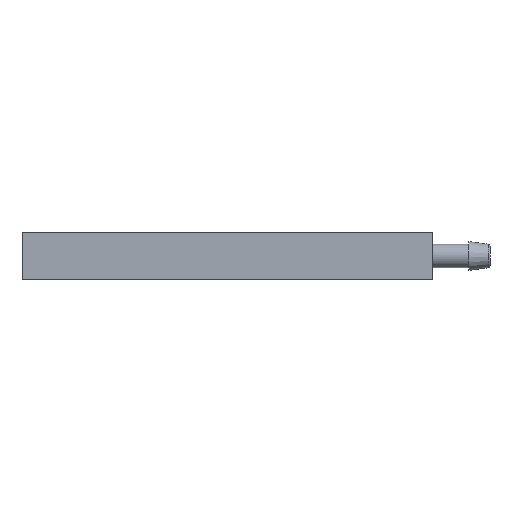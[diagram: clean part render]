
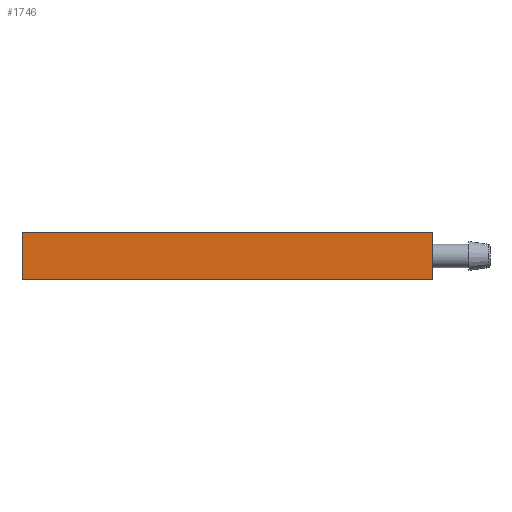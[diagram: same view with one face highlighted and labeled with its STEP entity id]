
A CAD part, front view. The second image highlights one B-rep face of the part: STEP entity #1746.
In plain terms, the highlighted planar face has unit normal (0, -1, 0) as drawn and (0, 1, 0) by its records, which use the part's own axes.
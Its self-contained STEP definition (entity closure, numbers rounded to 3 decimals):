
#688 = DIRECTION ( 'NONE',  ( 0., 0., -1. ) ) ;
#766 = CARTESIAN_POINT ( 'NONE',  ( 39., 7.1, -4.5 ) ) ;
#1393 = CARTESIAN_POINT ( 'NONE',  ( -39., 7.1, 4.5 ) ) ;
#1461 = VECTOR ( 'NONE', #8381, 1000. ) ;
#1746 = ADVANCED_FACE ( 'NONE', ( #5764 ), #3623, .F. ) ;
#1779 = VECTOR ( 'NONE', #10392, 1000. ) ;
#2696 = LINE ( 'NONE', #3382, #1779 ) ;
#3382 = CARTESIAN_POINT ( 'NONE',  ( 39., 7.1, -4.5 ) ) ;
#3484 = EDGE_LOOP ( 'NONE', ( #6270, #3801, #9234, #8752 ) ) ;
#3515 = EDGE_CURVE ( 'NONE', #6535, #3815, #6679, .T. ) ;
#3586 = CARTESIAN_POINT ( 'NONE',  ( 39., 7.1, -4.5 ) ) ;
#3623 = PLANE ( 'NONE',  #11320 ) ;
#3771 = VECTOR ( 'NONE', #6053, 1000. ) ;
#3801 = ORIENTED_EDGE ( 'NONE', *, *, #8968, .F. ) ;
#3815 = VERTEX_POINT ( 'NONE', #9464 ) ;
#5038 = VERTEX_POINT ( 'NONE', #5124 ) ;
#5124 = CARTESIAN_POINT ( 'NONE',  ( 39., 7.1, 4.5 ) ) ;
#5150 = DIRECTION ( 'NONE',  ( 0., 0., 1. ) ) ;
#5764 = FACE_OUTER_BOUND ( 'NONE', #3484, .T. ) ;
#6053 = DIRECTION ( 'NONE',  ( -1., 0., 0. ) ) ;
#6215 = CARTESIAN_POINT ( 'NONE',  ( -39., 7.1, -4.5 ) ) ;
#6270 = ORIENTED_EDGE ( 'NONE', *, *, #10353, .T. ) ;
#6370 = LINE ( 'NONE', #11952, #3771 ) ;
#6535 = VERTEX_POINT ( 'NONE', #766 ) ;
#6679 = LINE ( 'NONE', #12249, #1461 ) ;
#8297 = EDGE_CURVE ( 'NONE', #6535, #5038, #2696, .T. ) ;
#8381 = DIRECTION ( 'NONE',  ( -1., 0., 0. ) ) ;
#8752 = ORIENTED_EDGE ( 'NONE', *, *, #3515, .T. ) ;
#8968 = EDGE_CURVE ( 'NONE', #5038, #9946, #6370, .T. ) ;
#8995 = LINE ( 'NONE', #6215, #11321 ) ;
#9234 = ORIENTED_EDGE ( 'NONE', *, *, #8297, .F. ) ;
#9464 = CARTESIAN_POINT ( 'NONE',  ( -39., 7.1, -4.5 ) ) ;
#9946 = VERTEX_POINT ( 'NONE', #1393 ) ;
#10353 = EDGE_CURVE ( 'NONE', #3815, #9946, #8995, .T. ) ;
#10392 = DIRECTION ( 'NONE',  ( 0., 0., 1. ) ) ;
#11320 = AXIS2_PLACEMENT_3D ( 'NONE', #3586, #12498, #688 ) ;
#11321 = VECTOR ( 'NONE', #5150, 1000. ) ;
#11952 = CARTESIAN_POINT ( 'NONE',  ( 39., 7.1, 4.5 ) ) ;
#12249 = CARTESIAN_POINT ( 'NONE',  ( 39., 7.1, -4.5 ) ) ;
#12498 = DIRECTION ( 'NONE',  ( 0., -1., 0. ) ) ;
